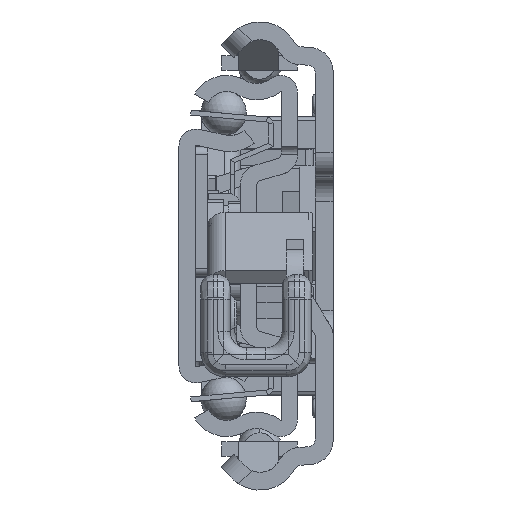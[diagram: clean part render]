
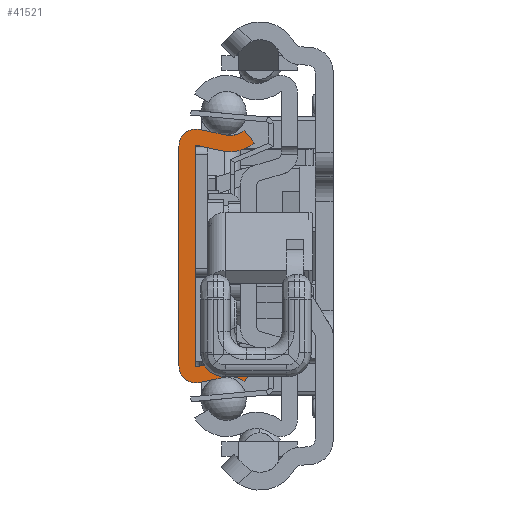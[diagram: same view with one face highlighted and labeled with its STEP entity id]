
A CAD part, left-side view. The second image highlights one B-rep face of the part: STEP entity #41521.
In plain terms, the highlighted planar face has unit normal (-1, 0, 0).
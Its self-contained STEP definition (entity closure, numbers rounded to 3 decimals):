
#37198=CARTESIAN_POINT('',(0.,-6.29,-17.65));
#37199=DIRECTION('',(-1.,0.,0.));
#37200=DIRECTION('',(0.,-0.629,0.778));
#37201=AXIS2_PLACEMENT_3D('',#37198,#37199,#37200);
#37203=DIRECTION('',(0.,0.977,-0.213));
#37204=VECTOR('',#37203,3.218);
#37205=CARTESIAN_POINT('',(0.,-5.692,-14.915));
#37206=LINE('',#37205,#37204);
#37207=CARTESIAN_POINT('',(0.,-2.1,-13.55));
#37208=DIRECTION('',(1.,0.,0.));
#37209=DIRECTION('',(0.,-0.213,-0.977));
#37210=AXIS2_PLACEMENT_3D('',#37207,#37208,#37209);
#37212=DIRECTION('',(0.,0.,1.));
#37213=VECTOR('',#37212,27.1);
#37214=CARTESIAN_POINT('',(0.,0.,-13.55));
#37215=LINE('',#37214,#37213);
#37216=CARTESIAN_POINT('',(0.,-2.1,13.55));
#37217=DIRECTION('',(1.,0.,0.));
#37218=DIRECTION('',(0.,1.,0.));
#37219=AXIS2_PLACEMENT_3D('',#37216,#37217,#37218);
#37221=DIRECTION('',(0.,-0.977,-0.213));
#37222=VECTOR('',#37221,3.218);
#37223=CARTESIAN_POINT('',(0.,-2.548,15.602));
#37224=LINE('',#37223,#37222);
#37225=CARTESIAN_POINT('',(0.,-6.29,17.65));
#37226=DIRECTION('',(-1.,0.,0.));
#37227=DIRECTION('',(0.,0.213,-0.977));
#37228=AXIS2_PLACEMENT_3D('',#37225,#37226,#37227);
#37230=DIRECTION('',(0.,-0.629,-0.778));
#37231=VECTOR('',#37230,2.);
#37232=CARTESIAN_POINT('',(0.,-8.05,15.472));
#37233=LINE('',#37232,#37231);
#37234=CARTESIAN_POINT('',(0.,-6.29,17.65));
#37235=DIRECTION('',(1.,0.,0.));
#37236=DIRECTION('',(0.,-0.629,-0.778));
#37237=AXIS2_PLACEMENT_3D('',#37234,#37235,#37236);
#37239=DIRECTION('',(0.,0.977,0.213));
#37240=VECTOR('',#37239,3.218);
#37241=CARTESIAN_POINT('',(0.,-5.265,12.961));
#37242=LINE('',#37241,#37240);
#37243=CARTESIAN_POINT('',(0.,-2.1,13.55));
#37244=DIRECTION('',(-1.,0.,0.));
#37245=DIRECTION('',(0.,-0.213,0.977));
#37246=AXIS2_PLACEMENT_3D('',#37243,#37244,#37245);
#37248=DIRECTION('',(0.,0.,-1.));
#37249=VECTOR('',#37248,27.1);
#37250=CARTESIAN_POINT('',(0.,-2.,13.55));
#37251=LINE('',#37250,#37249);
#37252=CARTESIAN_POINT('',(0.,-2.1,-13.55));
#37253=DIRECTION('',(-1.,0.,0.));
#37254=DIRECTION('',(0.,1.,0.));
#37255=AXIS2_PLACEMENT_3D('',#37252,#37253,#37254);
#37257=DIRECTION('',(0.,-0.977,0.213));
#37258=VECTOR('',#37257,3.218);
#37259=CARTESIAN_POINT('',(0.,-2.121,-13.648));
#37260=LINE('',#37259,#37258);
#37261=CARTESIAN_POINT('',(0.,-6.29,-17.65));
#37262=DIRECTION('',(1.,0.,0.));
#37263=DIRECTION('',(0.,0.213,0.977));
#37264=AXIS2_PLACEMENT_3D('',#37261,#37262,#37263);
#37266=DIRECTION('',(0.,0.629,-0.778));
#37267=VECTOR('',#37266,2.);
#37268=CARTESIAN_POINT('',(0.,-9.307,-13.917));
#37269=LINE('',#37268,#37267);
#40715=CARTESIAN_POINT('',(0.,-8.05,-15.472));
#40716=CARTESIAN_POINT('',(0.,-5.692,-14.915));
#40717=VERTEX_POINT('',#40715);
#40718=VERTEX_POINT('',#40716);
#40719=CARTESIAN_POINT('',(0.,-2.548,-15.602));
#40720=VERTEX_POINT('',#40719);
#40721=CARTESIAN_POINT('',(0.,0.,-13.55));
#40722=VERTEX_POINT('',#40721);
#40723=CARTESIAN_POINT('',(0.,0.,13.55));
#40724=VERTEX_POINT('',#40723);
#40725=CARTESIAN_POINT('',(0.,-2.548,15.602));
#40726=VERTEX_POINT('',#40725);
#40727=CARTESIAN_POINT('',(0.,-5.692,14.915));
#40728=VERTEX_POINT('',#40727);
#40729=CARTESIAN_POINT('',(0.,-8.05,15.472));
#40730=VERTEX_POINT('',#40729);
#40731=CARTESIAN_POINT('',(0.,-9.307,13.917));
#40732=VERTEX_POINT('',#40731);
#40733=CARTESIAN_POINT('',(0.,-5.265,12.961));
#40734=VERTEX_POINT('',#40733);
#40735=CARTESIAN_POINT('',(0.,-2.121,13.648));
#40736=VERTEX_POINT('',#40735);
#40737=CARTESIAN_POINT('',(0.,-2.,13.55));
#40738=VERTEX_POINT('',#40737);
#40739=CARTESIAN_POINT('',(0.,-2.,-13.55));
#40740=VERTEX_POINT('',#40739);
#40741=CARTESIAN_POINT('',(0.,-2.121,-13.648));
#40742=VERTEX_POINT('',#40741);
#40743=CARTESIAN_POINT('',(0.,-5.265,-12.961));
#40744=VERTEX_POINT('',#40743);
#40745=CARTESIAN_POINT('',(0.,-9.307,-13.917));
#40746=VERTEX_POINT('',#40745);
#41482=CARTESIAN_POINT('',(0.,0.,0.));
#41483=DIRECTION('',(1.,0.,0.));
#41484=DIRECTION('',(0.,-1.,0.));
#41485=AXIS2_PLACEMENT_3D('',#41482,#41483,#41484);
#41486=PLANE('',#41485);
#41488=ORIENTED_EDGE('',*,*,#41487,.T.);
#41490=ORIENTED_EDGE('',*,*,#41489,.T.);
#41492=ORIENTED_EDGE('',*,*,#41491,.T.);
#41494=ORIENTED_EDGE('',*,*,#41493,.T.);
#41496=ORIENTED_EDGE('',*,*,#41495,.T.);
#41498=ORIENTED_EDGE('',*,*,#41497,.T.);
#41500=ORIENTED_EDGE('',*,*,#41499,.T.);
#41502=ORIENTED_EDGE('',*,*,#41501,.T.);
#41504=ORIENTED_EDGE('',*,*,#41503,.T.);
#41506=ORIENTED_EDGE('',*,*,#41505,.T.);
#41508=ORIENTED_EDGE('',*,*,#41507,.T.);
#41510=ORIENTED_EDGE('',*,*,#41509,.T.);
#41512=ORIENTED_EDGE('',*,*,#41511,.T.);
#41514=ORIENTED_EDGE('',*,*,#41513,.T.);
#41516=ORIENTED_EDGE('',*,*,#41515,.T.);
#41518=ORIENTED_EDGE('',*,*,#41517,.T.);
#41519=EDGE_LOOP('',(#41488,#41490,#41492,#41494,#41496,#41498,#41500,#41502,
#41504,#41506,#41508,#41510,#41512,#41514,#41516,#41518));
#41520=FACE_OUTER_BOUND('',#41519,.F.);
#37202=CIRCLE('',#37201,2.8);
#37211=CIRCLE('',#37210,2.1);
#37220=CIRCLE('',#37219,2.1);
#37229=CIRCLE('',#37228,2.8);
#37238=CIRCLE('',#37237,4.8);
#37247=CIRCLE('',#37246,0.1);
#37256=CIRCLE('',#37255,0.1);
#37265=CIRCLE('',#37264,4.8);
#41487=EDGE_CURVE('',#40717,#40718,#37202,.T.);
#41489=EDGE_CURVE('',#40718,#40720,#37206,.T.);
#41491=EDGE_CURVE('',#40720,#40722,#37211,.T.);
#41493=EDGE_CURVE('',#40722,#40724,#37215,.T.);
#41495=EDGE_CURVE('',#40724,#40726,#37220,.T.);
#41497=EDGE_CURVE('',#40726,#40728,#37224,.T.);
#41499=EDGE_CURVE('',#40728,#40730,#37229,.T.);
#41501=EDGE_CURVE('',#40730,#40732,#37233,.T.);
#41503=EDGE_CURVE('',#40732,#40734,#37238,.T.);
#41505=EDGE_CURVE('',#40734,#40736,#37242,.T.);
#41507=EDGE_CURVE('',#40736,#40738,#37247,.T.);
#41509=EDGE_CURVE('',#40738,#40740,#37251,.T.);
#41511=EDGE_CURVE('',#40740,#40742,#37256,.T.);
#41513=EDGE_CURVE('',#40742,#40744,#37260,.T.);
#41515=EDGE_CURVE('',#40744,#40746,#37265,.T.);
#41517=EDGE_CURVE('',#40746,#40717,#37269,.T.);
#41521=ADVANCED_FACE('',(#41520),#41486,.F.);
